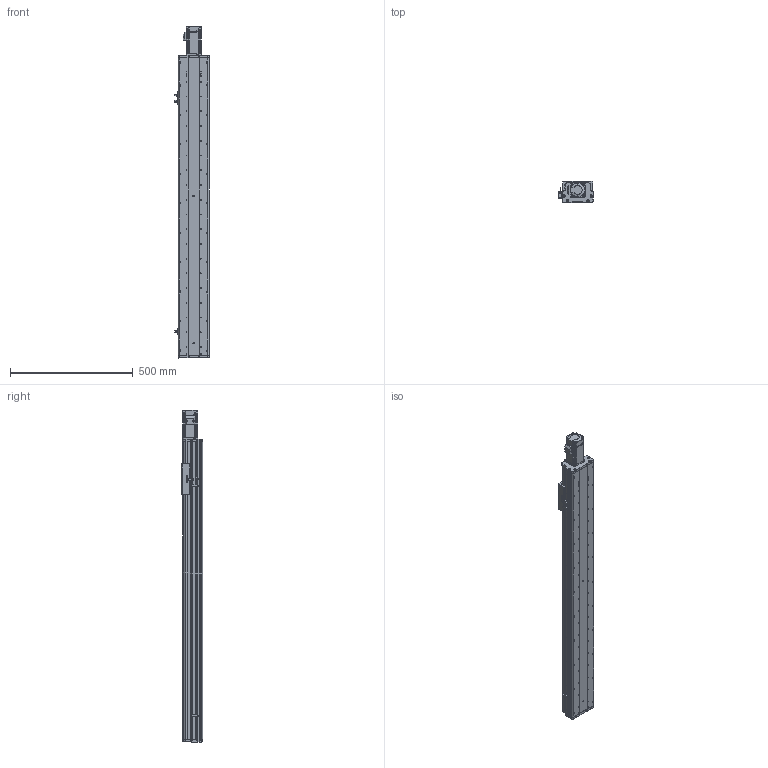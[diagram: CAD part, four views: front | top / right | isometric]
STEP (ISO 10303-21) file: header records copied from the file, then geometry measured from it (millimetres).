
FILE_DESCRIPTION (( 'STEP AP214' ), '1' );
FILE_NAME ('KSD125S-S950-MN-CM.STEP', '2017-08-07T06:21:08', ( '微软用户' ), ( '微软中国' ), 'SwSTEP 2.0', 'SolidWorks 2014', '' );
FILE_SCHEMA (( 'AUTOMOTIVE_DESIGN' ));
Length unit declared in the file: millimetre
Products named in the file (12): KSD125S-950行程丝杆防尘盖-直连不带电机座; KSD125S-950行程丝杆底板-直连不带电机座; 125宽模组 - 直连不带电机座电机安装板; MHMD042G1CA_2_03; 拸萇儂釱滅袉菜; 覜茼え68遵圉猾敕; U倰嫖萇假蚾璃; U倰嫖萇EEㄜSX672; KSD125-賑雄釱1; CS-34X32-10X14; 125-帣傷啣1; KSD125S-S950-MN-CM
Assembly tree (15 placements, depth 2):
  KSD125S-S950-MN-CM
    125-帣傷啣1
    CS-34X32-10X14
    KSD125-賑雄釱1
    U倰嫖萇EEㄜSX672  x3
    U倰嫖萇假蚾璃  x3
    覜茼え68遵圉猾敕
    拸萇儂釱滅袉菜
    MHMD042G1CA_2_03
    125宽模组 - 直连不带电机座电机安装板
    KSD125S-950行程丝杆底板-直连不带电机座
    KSD125S-950行程丝杆防尘盖-直连不带电机座
Bounding box: 138.7 x 86 x 1351.5 mm (x, y, z)
Volume: 3851494 mm3; surface area: 1259435.4 mm2
Topology: 14 solids, 17 shells, 1518 faces, 4401 edges, 2897 vertices
Faces by surface type: cylinder 780, plane 625, cone 91, bspline 22
Entity records: 53850 total; most frequent: CARTESIAN_POINT 11436, DIRECTION 7653, ORIENTED_EDGE 7310, EDGE_CURVE 3733, AXIS2_PLACEMENT_3D 2828, VERTEX_POINT 2489, LINE 1997, VECTOR 1997
